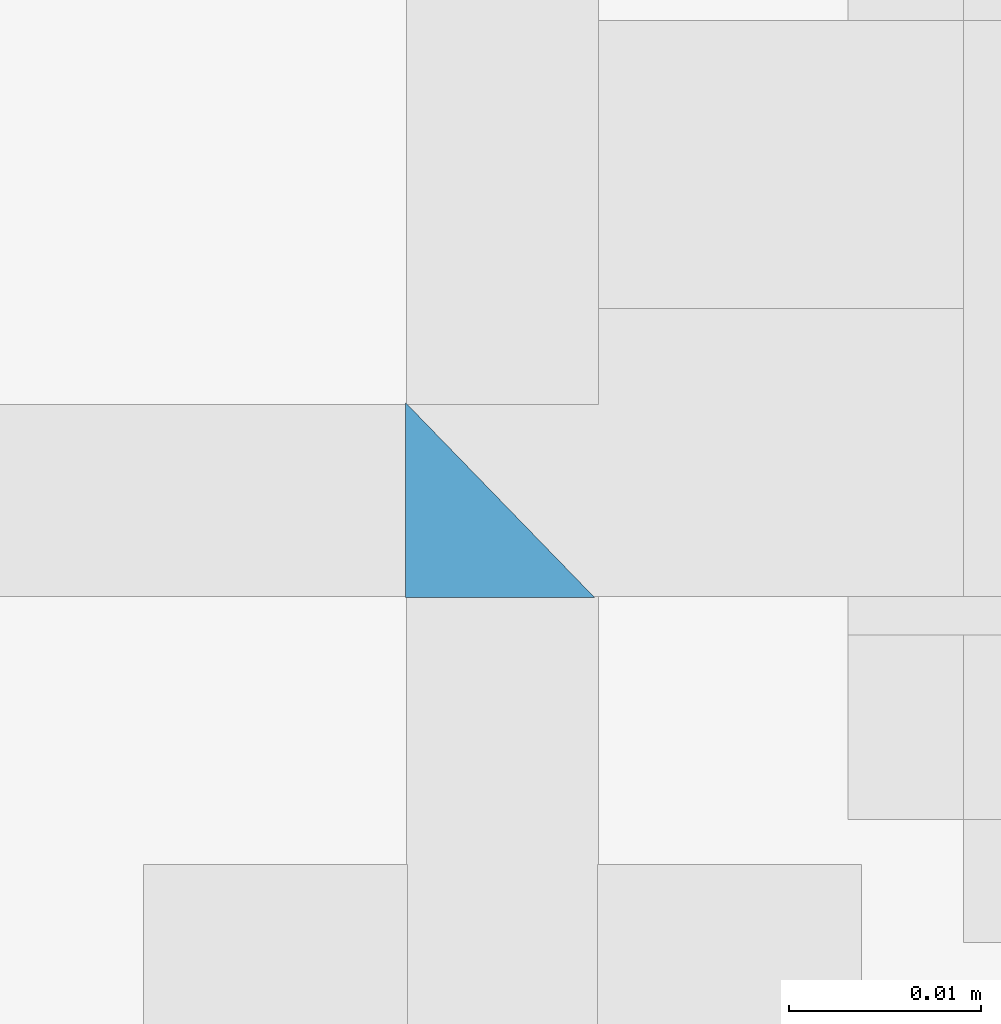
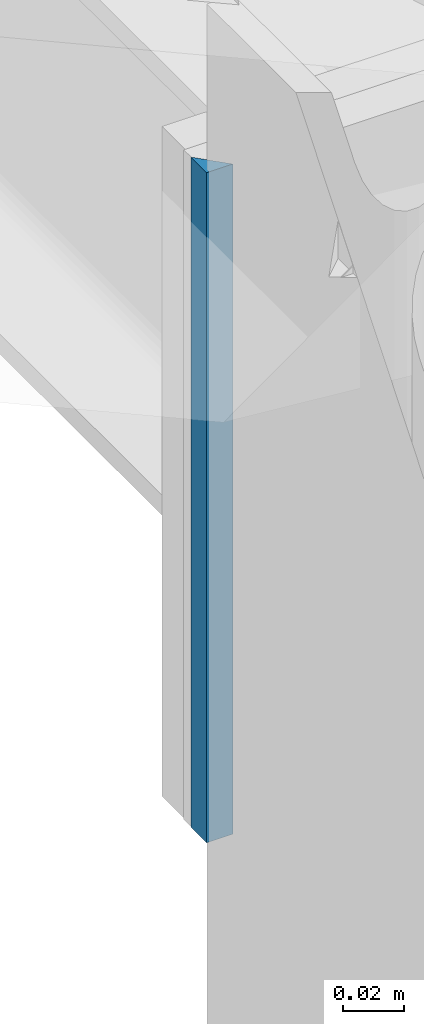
# One storey, part 25 of 251: 1 fastener.
"""IFC4 building model written with IfcOpenShell, lengths in metres."""

import ifcopenshell
import ifcopenshell.guid

model = None  # the IFC model being written
_history = None  # IfcOwnerHistory: only IFC2X3 demands one
_inside = {}  # id of a spatial element -> (the spatial element, [elements in it])
_under = {}  # id of a project, library or spatial element -> (it, [spatial elements below it])
_declared = {}  # id of a project -> (the project, [libraries it declares])
_typed = {}  # id of a type object -> (the type object, [elements of that type])
_made_of = {}  # id of a material, layer set ... -> (it, [elements and type objects made of it])


def new_model(schema):
    """Start an empty IFC model of exactly this schema.

    Asked for "IFC4X3", IfcOpenShell would pick the latest addendum, in which some entities
    have other attributes; the version numbers below select the first issue.
    IFC2X3 requires an IfcOwnerHistory on every rooted entity: one is made here for all.
    """
    global model, _history
    if schema == "IFC4X3":
        model = ifcopenshell.file(schema_version=(4, 3, 0, 0))
    else:
        model = ifcopenshell.file(schema=schema)
    _inside.clear()
    _under.clear()
    _declared.clear()
    _typed.clear()
    _made_of.clear()
    _history = None
    if model.schema == "IFC2X3":
        org = make("IfcOrganization", Name="unknown")
        user = make(
            "IfcPersonAndOrganization",
            ThePerson=make("IfcPerson", FamilyName="unknown"),
            TheOrganization=org,
        )
        app = make(
            "IfcApplication",
            ApplicationDeveloper=org,
            Version="unknown",
            ApplicationFullName="unknown",
            ApplicationIdentifier="unknown",
        )
        _history = make(
            "IfcOwnerHistory",
            OwningUser=user,
            OwningApplication=app,
            ChangeAction="ADDED",
            CreationDate=0,
        )
    return model


def make(cls, **values):
    """One entity of the class cls with the attributes given. An attribute that is None is left unset."""
    return model.create_entity(
        cls, **{name: value for name, value in values.items() if value is not None}
    )


def rooted(cls, **values):
    """An entity with a GlobalId (a new one), such as an element, a storey or a relation."""
    return make(cls, GlobalId=ifcopenshell.guid.new(), OwnerHistory=_history, **values)


def si_unit(unit_type, name, prefix=None):
    """IfcSIUnit, for example si_unit("LENGTHUNIT", "METRE", prefix="MILLI")."""
    return make("IfcSIUnit", UnitType=unit_type, Prefix=prefix, Name=name)


def assignment(units):
    """IfcUnitAssignment: the units of a project."""
    return None if units is None else make("IfcUnitAssignment", Units=units)


def point(xyz):
    """IfcCartesianPoint."""
    return None if xyz is None else make("IfcCartesianPoint", Coordinates=xyz)


def direction(xyz):
    """IfcDirection."""
    return None if xyz is None else make("IfcDirection", DirectionRatios=xyz)


def frame(location, z_axis=None, x_axis=None):
    """IfcAxis2Placement3D, a coordinate frame: its origin and axes. An axis left out is left unset."""
    return make(
        "IfcAxis2Placement3D",
        Location=point(location),
        Axis=direction(z_axis),
        RefDirection=direction(x_axis),
    )


def origin_with_axes():
    """The frame at (0, 0, 0) with the z axis (0, 0, 1) and the x axis (1, 0, 0) written out."""
    return frame((0.0, 0.0, 0.0), z_axis=(0.0, 0.0, 1.0), x_axis=(1.0, 0.0, 0.0))


def place(relative_to, where):
    """IfcLocalPlacement: puts the frame where relative to a parent placement (None: the world)."""
    return make(
        "IfcLocalPlacement", PlacementRelTo=relative_to, RelativePlacement=where
    )


def context(
    kind, dimensions, precision=None, world=None, true_north=None, identifier=None
):
    """IfcGeometricRepresentationContext, for example the 3D "Model" context."""
    return make(
        "IfcGeometricRepresentationContext",
        ContextIdentifier=identifier,
        ContextType=kind,
        CoordinateSpaceDimension=dimensions,
        Precision=precision,
        WorldCoordinateSystem=world,
        TrueNorth=true_north,
    )


def project(units=None, contexts=None):
    """IfcProject with its units and contexts."""
    return rooted(
        "IfcProject",
        Name="project",
        RepresentationContexts=contexts,
        UnitsInContext=assignment(units),
    )


def spatial(cls, under=None, at=None, **own):
    """A site, building, storey or space (cls), placed at a placement, below another one or the project."""
    s = rooted(cls, ObjectPlacement=at, **own)
    if under is not None:
        _under.setdefault(under.id(), (under, []))[1].append(s)
    return s


def polyline(points):
    """IfcPolyline through the points."""
    return make("IfcPolyline", Points=[point(p) for p in points])


def outline(outer, holes=None, kind="AREA"):
    """IfcArbitraryClosedProfileDef: a profile drawn as a closed curve; with holes, ...WithVoids."""
    if holes is None:
        return make("IfcArbitraryClosedProfileDef", ProfileType=kind, OuterCurve=outer)
    return make(
        "IfcArbitraryProfileDefWithVoids",
        ProfileType=kind,
        OuterCurve=outer,
        InnerCurves=holes,
    )


def extrude(swept, where, along, depth):
    """IfcExtrudedAreaSolid: the profile swept, set in the frame where, extruded along a direction by depth."""
    return make(
        "IfcExtrudedAreaSolid",
        SweptArea=swept,
        Position=where,
        ExtrudedDirection=direction(along),
        Depth=depth,
    )


def shape(context_of_items, identifier, shape_type, items):
    """IfcShapeRepresentation: the items that make up one representation, for example the "Body"."""
    return make(
        "IfcShapeRepresentation",
        ContextOfItems=context_of_items,
        RepresentationIdentifier=identifier,
        RepresentationType=shape_type,
        Items=items,
    )


def made_of(thing, what):
    """Note that an element or type object is made of a material, layer set ...; save() writes the relation."""
    if what is not None:
        _made_of.setdefault(what.id(), (what, []))[1].append(thing)
    return thing


def type_object(cls, material=None, **own):
    """A type object (cls), such as IfcWallType, which elements share."""
    return made_of(rooted(cls, **own), material)


def element(
    cls,
    number,
    at=None,
    inside=None,
    cuts=None,
    type_object=None,
    material=None,
    context=None,
    identifier="Body",
    shape_type=None,
    held_by="IfcProductDefinitionShape",
    body=None,
    shapes=None,
    **own,
):
    """One element of the class cls, such as IfcWall. Its Tag is "e" and its number.

    at: its placement. inside: the storey or other place that contains it. cuts: it is an
    opening in that element (IfcRelVoidsElement). A single representation is given by context,
    identifier, shape_type and body (its items); several are given by shapes. held_by: the class
    of the entity that holds the representations. save() writes the other relations.
    """
    e = rooted(cls, Tag="e%d" % number, ObjectPlacement=at, **own)
    if body is not None:
        shapes = [shape(context, identifier, shape_type, body)]
    if shapes is not None:
        e.Representation = make(held_by, Representations=shapes)
    if inside is not None:
        _inside.setdefault(inside.id(), (inside, []))[1].append(e)
    if cuts is not None:
        rooted(
            "IfcRelVoidsElement", RelatingBuildingElement=cuts, RelatedOpeningElement=e
        )
    if type_object is not None:
        _typed.setdefault(type_object.id(), (type_object, []))[1].append(e)
    return made_of(e, material)


def aggregate(whole, parts):
    """IfcRelAggregates: a whole, such as a stair, and the parts it consists of."""
    return rooted("IfcRelAggregates", RelatingObject=whole, RelatedObjects=parts)


def save(model, path):
    """Write the relations noted so far, then the file.

    IfcRelAggregates (storeys below a building ...), IfcRelContainedInSpatialStructure (elements
    in a storey), IfcRelDefinesByType, IfcRelAssociatesMaterial and IfcRelDeclares: one each for
    every whole, place, type object, material and project.
    """
    for whole, parts in _under.values():
        aggregate(whole, parts)
    for where, things in _inside.values():
        rooted(
            "IfcRelContainedInSpatialStructure",
            RelatedElements=things,
            RelatingStructure=where,
        )
    for kind, things in _typed.values():
        rooted("IfcRelDefinesByType", RelatedObjects=things, RelatingType=kind)
    for what, things in _made_of.values():
        rooted("IfcRelAssociatesMaterial", RelatedObjects=things, RelatingMaterial=what)
    for by, libraries in _declared.values():
        rooted("IfcRelDeclares", RelatingContext=by, RelatedDefinitions=libraries)
    model.write(path)


model = new_model("IFC4")

# Units and contexts
model_context = context("Model", 3, precision=1e-05, world=origin_with_axes())
ifc_project = project(units=[si_unit("LENGTHUNIT", "METRE"), si_unit("AREAUNIT", "SQUARE_METRE"), si_unit("VOLUMEUNIT", "CUBIC_METRE"), si_unit("MASSUNIT", "GRAM", prefix="KILO"), si_unit("TIMEUNIT", "SECOND"), si_unit("PLANEANGLEUNIT", "RADIAN"), si_unit("SOLIDANGLEUNIT", "STERADIAN"), si_unit("THERMODYNAMICTEMPERATUREUNIT", "DEGREE_CELSIUS")], contexts=[model_context])

# Site, building, storey
placement_1 = place(None, origin_with_axes())
site = spatial("IfcSite", under=ifc_project, at=placement_1, Name="Italia", CompositionType="ELEMENT")
building = spatial("IfcBuilding", under=site, at=placement_1, Name="Deposito", CompositionType="ELEMENT")
storey = spatial("IfcBuildingStorey", under=building, at=placement_1, Name="Storey 0", CompositionType="ELEMENT", Elevation=0.0)

# Fastener
fastener_type = type_object("IfcFastenerType", Name="Collegamenti -064_-065 -065_-064 -065_-066 -066_-065 -066_-067 -067_-066 -067_-068 -068_-067", PredefinedType="WELD")
placement_2 = place(placement_1, origin_with_axes())
fastener_placement = place(placement_2, origin_with_axes())
element("IfcFastener", 1, at=fastener_placement, inside=storey, type_object=fastener_type, Name="Collegamenti -064_-065 -065_-064 -065_-066 -066_-065 -066_-067 -067_-066 -067_-068 -068_-067", context=model_context, shape_type="SweptSolid", body=[
    extrude(outline(polyline([(0.0, 0.0), (0.0101734, -0.00986862), (0.0, -0.00986862), (0.0, 0.0)])), frame((19.9148, 0.09995, 5.93305), z_axis=(0.0, 0.0, -1.0), x_axis=(0.0, 1.0, 0.0)), (0.0, 0.0, 1.0), 0.2661),
])

save(model, "model.ifc")
